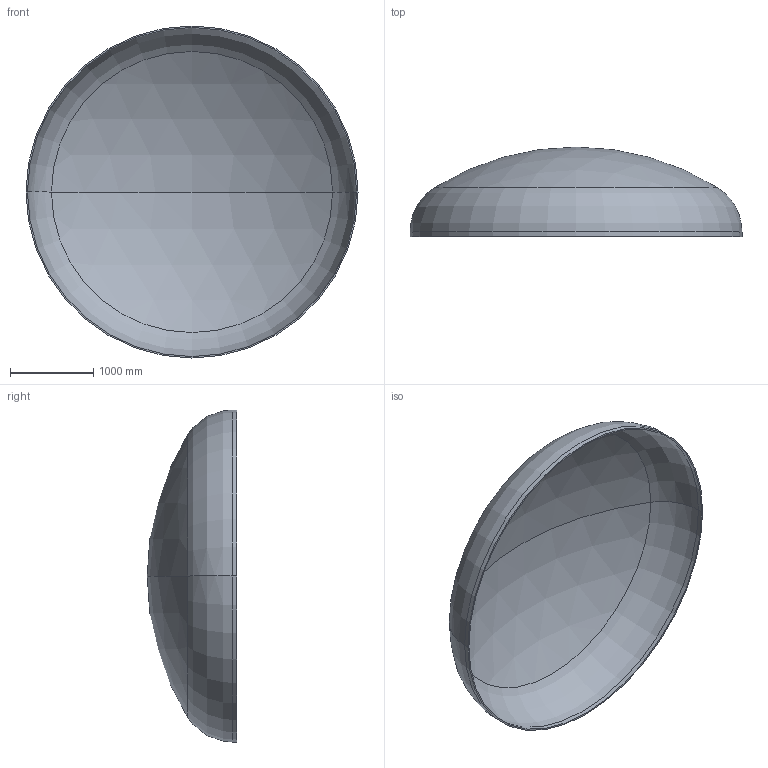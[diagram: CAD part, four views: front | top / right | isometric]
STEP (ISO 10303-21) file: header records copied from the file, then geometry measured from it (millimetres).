
FILE_DESCRIPTION (( 'STEP AP203' ), '1' );
FILE_NAME ('DIN 28013 Korbbogenform_-_Boden DIN 28013 - 4000 x 55 - I - s=17.step', '2016-07-01T22:05:35', ( '' ), ( '' ), 'SwSTEP 2.0', 'SolidWorks 2013', '' );
FILE_SCHEMA (( 'CONFIG_CONTROL_DESIGN' ));
Length unit declared in the file: millimetre
Products named in the file (1): DIN 28013 Korbbogenform_-_Boden DIN 28013 - 4000 x 55 - I - s=17
Bounding box: 4000 x 1078.65 x 4000 mm (x, y, z)
Volume: 305834894.8 mm3; surface area: 36193887.1 mm2
Topology: 1 solids, 1 shells, 13 faces, 24 edges, 14 vertices
Faces by surface type: torus 4, cylinder 4, sphere 4, plane 1
Entity records: 407 total; most frequent: DIRECTION 72, CARTESIAN_POINT 52, ORIENTED_EDGE 48, AXIS2_PLACEMENT_3D 34, EDGE_CURVE 24, CIRCLE 20, VERTEX_POINT 14, EDGE_LOOP 14
